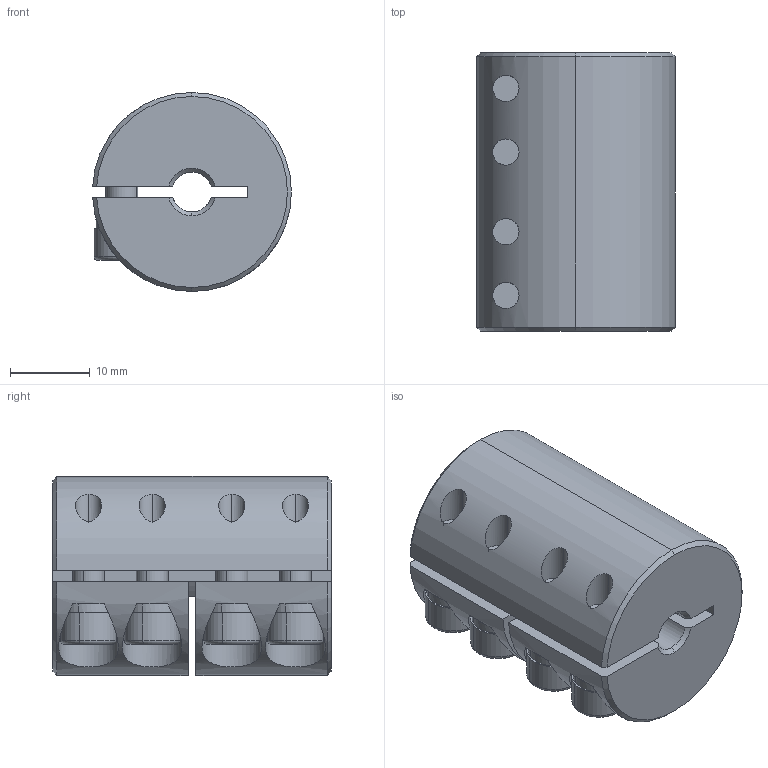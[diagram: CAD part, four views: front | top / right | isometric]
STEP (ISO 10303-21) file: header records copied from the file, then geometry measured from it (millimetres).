
FILE_DESCRIPTION (( 'STEP AP203' ), '1' );
FILE_NAME ('LL-B-D25L35-5-12.STEP', '2021-11-05T06:50:55', ( '' ), ( '' ), 'SwSTEP 2.0', 'SolidWorks 2018', '' );
FILE_SCHEMA (( 'CONFIG_CONTROL_DESIGN' ));
Length unit declared in the file: millimetre
Products named in the file (1): LL-B-D25L35-5-12
Bounding box: 24.98 x 35 x 25 mm (x, y, z)
Volume: 13714.5 mm3; surface area: 6908.1 mm2
Topology: 1 solids, 1 shells, 192 faces, 493 edges, 307 vertices
Faces by surface type: plane 92, cylinder 72, cone 20, torus 8
Entity records: 6313 total; most frequent: CARTESIAN_POINT 1497, DIRECTION 1042, ORIENTED_EDGE 970, EDGE_CURVE 485, AXIS2_PLACEMENT_3D 404, VERTEX_POINT 307, LINE 234, VECTOR 234
